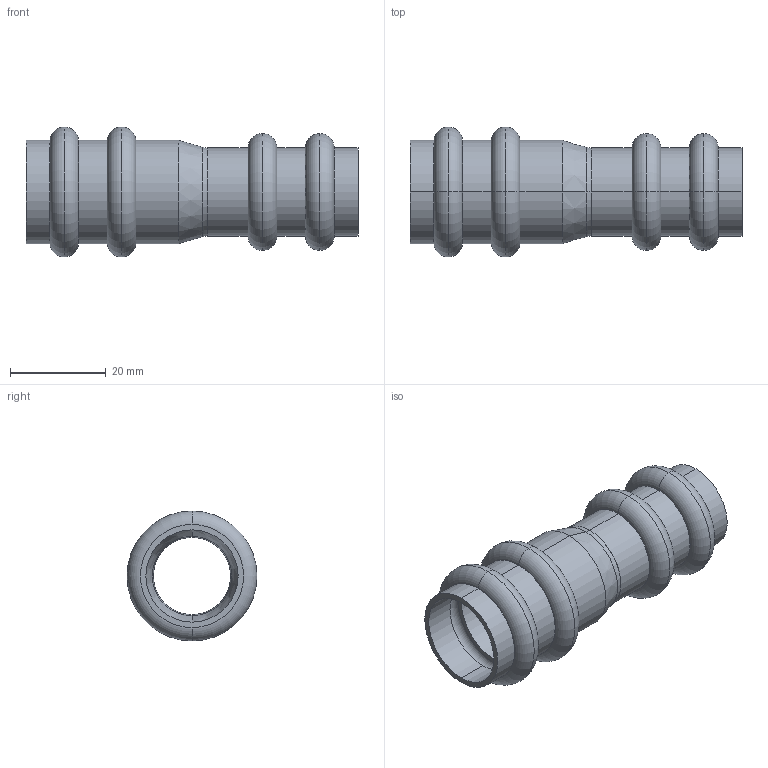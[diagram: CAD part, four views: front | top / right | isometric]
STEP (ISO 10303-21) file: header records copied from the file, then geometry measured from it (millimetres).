
FILE_DESCRIPTION(('starvars output'),'1');
FILE_NAME('cv20240422105316000011731.stp','10:53:16 2024/04/22',('Thomas Industrial Network Germany GmbH'),(' '),'Spatial InterOp 3D',' ',' ');
FILE_SCHEMA(('AUTOMOTIVE_DESIGN { 1 0 10303 214 3 1 1 }'));
Length unit declared in the file: millimetre
Products named in the file (1): 1
Bounding box: 69.5 x 27.2 x 27.2 mm (x, y, z)
Volume: 6520.9 mm3; surface area: 10977 mm2
Topology: 1 solids, 1 shells, 84 faces, 168 edges, 104 vertices
Faces by surface type: torus 36, cylinder 24, plane 20, cone 4
Entity records: 2940 total; most frequent: DIRECTION 478, CARTESIAN_POINT 357, ORIENTED_EDGE 336, AXIS2_PLACEMENT_3D 225, EDGE_CURVE 168, CIRCLE 140, EDGE_LOOP 104, VERTEX_POINT 104
